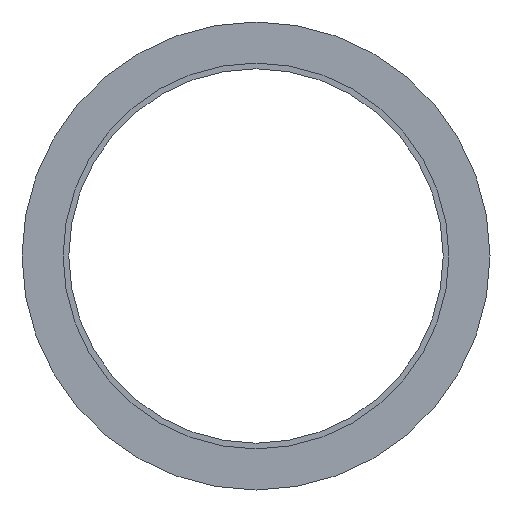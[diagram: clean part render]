
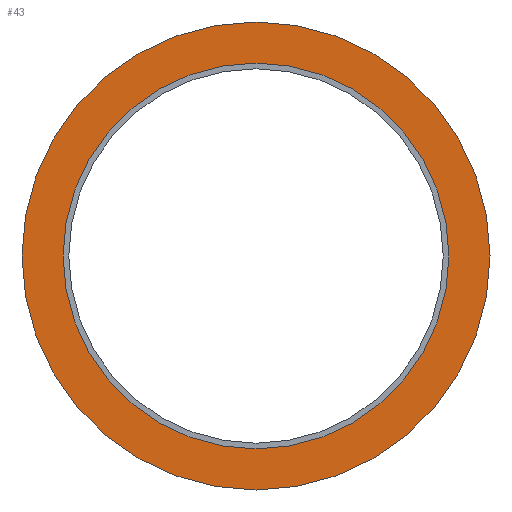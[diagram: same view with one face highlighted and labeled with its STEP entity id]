
A CAD part, left-side view. The second image highlights one B-rep face of the part: STEP entity #43.
In plain terms, the highlighted planar face has unit normal (-1, 0, 0).
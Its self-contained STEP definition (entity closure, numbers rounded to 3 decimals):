
#4 = FACE_OUTER_BOUND ( 'NONE', #125, .T. ) ;
#34 = CARTESIAN_POINT ( 'NONE',  ( -3.037, -0.152, 0. ) ) ;
#37 = CARTESIAN_POINT ( 'NONE',  ( -3.037, -0.152, 0. ) ) ;
#41 = CARTESIAN_POINT ( 'NONE',  ( -3.037, -0.152, 0. ) ) ;
#43 = ADVANCED_FACE ( 'NONE', ( #296, #4 ), #314, .T. ) ;
#68 = DIRECTION ( 'NONE',  ( 0., 0., -1. ) ) ;
#73 = EDGE_CURVE ( 'NONE', #210, #388, #99, .T. ) ;
#87 = EDGE_CURVE ( 'NONE', #400, #255, #127, .T. ) ;
#99 = CIRCLE ( 'NONE', #123, 10.305 ) ;
#103 = DIRECTION ( 'NONE',  ( 1., 0., 0. ) ) ;
#112 = AXIS2_PLACEMENT_3D ( 'NONE', #41, #274, #68 ) ;
#117 = CARTESIAN_POINT ( 'NONE',  ( -3.037, -0.152, 0. ) ) ;
#122 = DIRECTION ( 'NONE',  ( 0., 0., -1. ) ) ;
#123 = AXIS2_PLACEMENT_3D ( 'NONE', #37, #339, #122 ) ;
#125 = EDGE_LOOP ( 'NONE', ( #329, #317 ) ) ;
#127 = CIRCLE ( 'NONE', #112, 12.5 ) ;
#141 = CARTESIAN_POINT ( 'NONE',  ( -3.037, -0.152, -10.305 ) ) ;
#147 = ORIENTED_EDGE ( 'NONE', *, *, #272, .T. ) ;
#178 = CARTESIAN_POINT ( 'NONE',  ( -3.037, -0.152, 10.305 ) ) ;
#186 = DIRECTION ( 'NONE',  ( 1., 0., 0. ) ) ;
#204 = DIRECTION ( 'NONE',  ( 0., 0., 1. ) ) ;
#210 = VERTEX_POINT ( 'NONE', #178 ) ;
#216 = AXIS2_PLACEMENT_3D ( 'NONE', #332, #186, #391 ) ;
#229 = CARTESIAN_POINT ( 'NONE',  ( -3.037, -0.152, 12.5 ) ) ;
#255 = VERTEX_POINT ( 'NONE', #334 ) ;
#258 = CIRCLE ( 'NONE', #216, 12.5 ) ;
#272 = EDGE_CURVE ( 'NONE', #388, #210, #315, .T. ) ;
#274 = DIRECTION ( 'NONE',  ( 1., 0., 0. ) ) ;
#282 = EDGE_LOOP ( 'NONE', ( #147, #288 ) ) ;
#288 = ORIENTED_EDGE ( 'NONE', *, *, #73, .T. ) ;
#291 = DIRECTION ( 'NONE',  ( 0., 0., -1. ) ) ;
#296 = FACE_BOUND ( 'NONE', #282, .T. ) ;
#314 = PLANE ( 'NONE',  #349 ) ;
#315 = CIRCLE ( 'NONE', #327, 10.305 ) ;
#317 = ORIENTED_EDGE ( 'NONE', *, *, #87, .F. ) ;
#327 = AXIS2_PLACEMENT_3D ( 'NONE', #34, #103, #291 ) ;
#329 = ORIENTED_EDGE ( 'NONE', *, *, #410, .F. ) ;
#332 = CARTESIAN_POINT ( 'NONE',  ( -3.037, -0.152, 0. ) ) ;
#334 = CARTESIAN_POINT ( 'NONE',  ( -3.037, -0.152, -12.5 ) ) ;
#339 = DIRECTION ( 'NONE',  ( 1., 0., 0. ) ) ;
#349 = AXIS2_PLACEMENT_3D ( 'NONE', #117, #366, #204 ) ;
#366 = DIRECTION ( 'NONE',  ( -1., 0., 0. ) ) ;
#388 = VERTEX_POINT ( 'NONE', #141 ) ;
#391 = DIRECTION ( 'NONE',  ( 0., 0., -1. ) ) ;
#400 = VERTEX_POINT ( 'NONE', #229 ) ;
#410 = EDGE_CURVE ( 'NONE', #255, #400, #258, .T. ) ;
